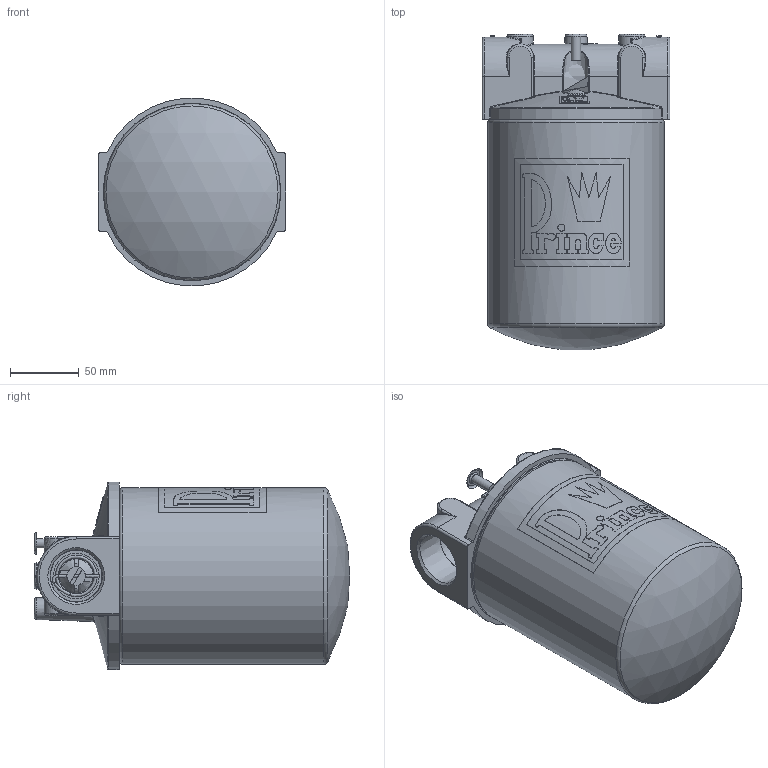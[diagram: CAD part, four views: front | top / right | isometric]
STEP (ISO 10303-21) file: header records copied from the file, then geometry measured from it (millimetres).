
FILE_DESCRIPTION((''),'2;1');
FILE_NAME('C:\Vault\Workspace\Vest\FB1200-10.stp','2010-01-25T09:24:41',('NewtonB'),(''),'Autodesk Inventor 2010','Autodesk Inventor 2010','');
FILE_SCHEMA(('AUTOMOTIVE_DESIGN { 1 0 10303 214 1 1 1 1 }'));
Length unit declared in the file: inch
Products named in the file (8): FB1200-10; 27000FB10; 27000FB10-1V; 270016010V; GASKETV; 180900667V; 230008502V; FILTERV
Assembly tree (7 placements, depth 2):
  FB1200-10
    27000FB10
    27000FB10-1V
    270016010V
    GASKETV
    180900667V
    230008502V
    FILTERV
Bounding box: 136.8 x 229.53 x 136.29 mm (x, y, z)
Volume: 970710.4 mm3; surface area: 354618.5 mm2
Topology: 8 solids, 10 shells, 827 faces, 2180 edges, 1380 vertices
Faces by surface type: cylinder 300, plane 280, bspline 182, torus 36, cone 28, sphere 1
Full cylindrical faces by diameter (mm): 1.358 x1, 5.18 x1, 12.7 x12, 30.48 x1, 38.1 x2, 43.79 x1, 50.902 x1, 55.118 x1, 57.658 x1, 70.358 x1, 106.68 x1, 112.268 x1, 113.792 x1, 116.078 x1, 117.754 x1, 120.294 x2, 125.984 x2, 126.492 x1, 128.524 x1, 129.286 x1
Entity records: 39084 total; most frequent: CARTESIAN_POINT 20860, ORIENTED_EDGE 4144, DIRECTION 2903, EDGE_CURVE 2072, VERTEX_POINT 1362, AXIS2_PLACEMENT_3D 1088, EDGE_LOOP 976, FACE_OUTER_BOUND 826
